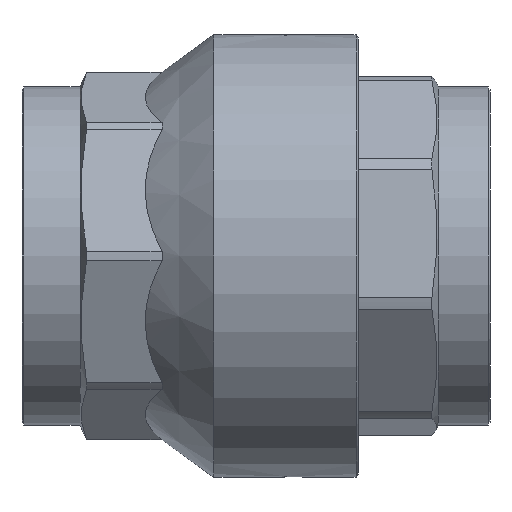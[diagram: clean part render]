
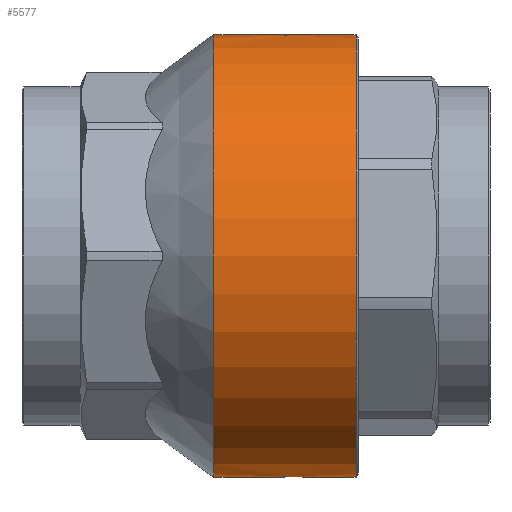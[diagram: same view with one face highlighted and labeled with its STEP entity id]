
A CAD part, front view. The second image highlights one B-rep face of the part: STEP entity #5577.
In plain terms, the highlighted cylindrical face has radius 43.561 mm (diameter 87.122 mm), a partial arc.
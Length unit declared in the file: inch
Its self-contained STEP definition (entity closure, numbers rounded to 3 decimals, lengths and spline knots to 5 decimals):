
#47 = ORIENTED_EDGE ( 'NONE', *, *, #4498, .T. ) ;
#805 = CIRCLE ( 'NONE', #21040, 1.715 ) ;
#1542 = EDGE_CURVE ( 'NONE', #18979, #5548, #12440, .T. ) ;
#1824 =( BOUNDED_CURVE ( )  B_SPLINE_CURVE ( 3, ( #19364, #9232, #2531, #14342 ),
 .UNSPECIFIED., .F., .F. ) 
 B_SPLINE_CURVE_WITH_KNOTS ( ( 4, 4 ),
 ( 4.71239, 4.79818 ),
 .UNSPECIFIED. ) 
 CURVE ( )  GEOMETRIC_REPRESENTATION_ITEM ( )  RATIONAL_B_SPLINE_CURVE ( ( 1., 0.999, 0.999, 1. ) ) 
 REPRESENTATION_ITEM ( '' )  );
#2203 = AXIS2_PLACEMENT_3D ( 'NONE', #4355, #2574, #11034 ) ;
#2343 = ORIENTED_EDGE ( 'NONE', *, *, #21687, .T. ) ;
#2531 = CARTESIAN_POINT ( 'NONE',  ( 0.31906, -0.09807, -1.7129 ) ) ;
#2574 = DIRECTION ( 'NONE',  ( -1., 0., 0. ) ) ;
#2922 = EDGE_LOOP ( 'NONE', ( #21346, #2343, #14854, #47, #14863, #19027, #7562, #17751, #6695, #3567, #20467, #9256, #3518, #6174 ) ) ;
#3518 = ORIENTED_EDGE ( 'NONE', *, *, #9995, .F. ) ;
#3567 = ORIENTED_EDGE ( 'NONE', *, *, #16514, .F. ) ;
#3718 = VECTOR ( 'NONE', #15629, 39.37008 ) ;
#3772 = EDGE_CURVE ( 'NONE', #5819, #13321, #21251, .T. ) ;
#3998 = DIRECTION ( 'NONE',  ( 1., 0., 0. ) ) ;
#4355 = CARTESIAN_POINT ( 'NONE',  ( -5.28898, 0., 0. ) ) ;
#4452 = VERTEX_POINT ( 'NONE', #8392 ) ;
#4472 = DIRECTION ( 'NONE',  ( -1., 0., 0. ) ) ;
#4498 = EDGE_CURVE ( 'NONE', #11951, #5819, #11152, .T. ) ;
#4518 = CARTESIAN_POINT ( 'NONE',  ( -0.12769, 0., 1.715 ) ) ;
#4584 = LINE ( 'NONE', #7281, #17028 ) ;
#5198 = CARTESIAN_POINT ( 'NONE',  ( 0.41583, -0.04906, 1.715 ) ) ;
#5248 = CARTESIAN_POINT ( 'NONE',  ( -0.3275, 0., -1.715 ) ) ;
#5548 = VERTEX_POINT ( 'NONE', #9372 ) ;
#5577 = ADVANCED_FACE ( 'NONE', ( #17791 ), #16731, .T. ) ;
#5745 = EDGE_CURVE ( 'NONE', #18403, #13020, #9567, .T. ) ;
#5819 = VERTEX_POINT ( 'NONE', #18448 ) ;
#5844 = LINE ( 'NONE', #13544, #13788 ) ;
#5883 = DIRECTION ( 'NONE',  ( 0., 0., 1. ) ) ;
#6171 = CARTESIAN_POINT ( 'NONE',  ( 0.77486, 0., 1.715 ) ) ;
#6174 = ORIENTED_EDGE ( 'NONE', *, *, #7341, .F. ) ;
#6505 = DIRECTION ( 'NONE',  ( -1., 0., 0. ) ) ;
#6695 = ORIENTED_EDGE ( 'NONE', *, *, #1542, .F. ) ;
#6723 = AXIS2_PLACEMENT_3D ( 'NONE', #8115, #19916, #9775 ) ;
#6946 = VECTOR ( 'NONE', #16507, 39.37008 ) ;
#7281 = CARTESIAN_POINT ( 'NONE',  ( -5.28898, 0., 1.715 ) ) ;
#7320 = CARTESIAN_POINT ( 'NONE',  ( 0.77486, 0., 0. ) ) ;
#7341 = EDGE_CURVE ( 'NONE', #4452, #13610, #1824, .T. ) ;
#7415 = CARTESIAN_POINT ( 'NONE',  ( -0.12769, 0., -1.715 ) ) ;
#7427 = VERTEX_POINT ( 'NONE', #17876 ) ;
#7562 = ORIENTED_EDGE ( 'NONE', *, *, #19785, .T. ) ;
#7591 = AXIS2_PLACEMENT_3D ( 'NONE', #7320, #19142, #9009 ) ;
#7752 = EDGE_CURVE ( 'NONE', #13321, #19683, #17011, .T. ) ;
#8018 = VECTOR ( 'NONE', #18516, 39.37008 ) ;
#8076 = CARTESIAN_POINT ( 'NONE',  ( 0.77486, 0., -1.715 ) ) ;
#8115 = CARTESIAN_POINT ( 'NONE',  ( -0.12769, 0., 0. ) ) ;
#8392 = CARTESIAN_POINT ( 'NONE',  ( 0.51268, 0., -1.715 ) ) ;
#8615 = CARTESIAN_POINT ( 'NONE',  ( 0.22256, -0.14694, 1.70869 ) ) ;
#8897 = CARTESIAN_POINT ( 'NONE',  ( -0.3275, 0., 0. ) ) ;
#8907 = CARTESIAN_POINT ( 'NONE',  ( -5.28898, -0.0402, -1.71453 ) ) ;
#8986 = EDGE_CURVE ( 'NONE', #15557, #4452, #18011, .T. ) ;
#9009 = DIRECTION ( 'NONE',  ( 0., 0., 1. ) ) ;
#9232 = CARTESIAN_POINT ( 'NONE',  ( 0.41583, -0.04906, -1.715 ) ) ;
#9256 = ORIENTED_EDGE ( 'NONE', *, *, #9418, .F. ) ;
#9372 = CARTESIAN_POINT ( 'NONE',  ( -0.3275, 0., 1.715 ) ) ;
#9418 = EDGE_CURVE ( 'NONE', #7427, #18403, #21141, .T. ) ;
#9497 = AXIS2_PLACEMENT_3D ( 'NONE', #8897, #18930, #21625 ) ;
#9567 = CIRCLE ( 'NONE', #6723, 1.715 ) ;
#9775 = DIRECTION ( 'NONE',  ( 0., 0., -1. ) ) ;
#9820 = CIRCLE ( 'NONE', #7591, 1.715 ) ;
#9995 = EDGE_CURVE ( 'NONE', #13610, #7427, #805, .T. ) ;
#10190 = DIRECTION ( 'NONE',  ( -1., 0., 0. ) ) ;
#11034 = DIRECTION ( 'NONE',  ( 0., 0., 1. ) ) ;
#11152 =( BOUNDED_CURVE ( )  B_SPLINE_CURVE ( 3, ( #18722, #5198, #15325, #8615 ),
 .UNSPECIFIED., .F., .T. ) 
 B_SPLINE_CURVE_WITH_KNOTS ( ( 4, 4 ),
 ( 4.71239, 4.79818 ),
 .UNSPECIFIED. ) 
 CURVE ( )  GEOMETRIC_REPRESENTATION_ITEM ( )  RATIONAL_B_SPLINE_CURVE ( ( 1., 0.999, 0.999, 1. ) ) 
 REPRESENTATION_ITEM ( '' )  );
#11523 = CARTESIAN_POINT ( 'NONE',  ( 0.22256, -0.0402, 1.71453 ) ) ;
#11951 = VERTEX_POINT ( 'NONE', #14037 ) ;
#12440 = CIRCLE ( 'NONE', #9497, 1.715 ) ;
#12808 = EDGE_CURVE ( 'NONE', #14500, #11951, #5844, .T. ) ;
#13020 = VERTEX_POINT ( 'NONE', #7415 ) ;
#13321 = VERTEX_POINT ( 'NONE', #11523 ) ;
#13410 = DIRECTION ( 'NONE',  ( -1., 0., 0. ) ) ;
#13478 = CARTESIAN_POINT ( 'NONE',  ( -5.28898, -0.0402, 1.71453 ) ) ;
#13504 = VECTOR ( 'NONE', #6505, 39.37008 ) ;
#13544 = CARTESIAN_POINT ( 'NONE',  ( -5.28898, 0., 1.715 ) ) ;
#13610 = VERTEX_POINT ( 'NONE', #15517 ) ;
#13788 = VECTOR ( 'NONE', #10190, 39.37008 ) ;
#14037 = CARTESIAN_POINT ( 'NONE',  ( 0.51268, 0., 1.715 ) ) ;
#14118 = CARTESIAN_POINT ( 'NONE',  ( 0.22256, 0., 0. ) ) ;
#14342 = CARTESIAN_POINT ( 'NONE',  ( 0.22256, -0.14694, -1.70869 ) ) ;
#14500 = VERTEX_POINT ( 'NONE', #6171 ) ;
#14615 = CARTESIAN_POINT ( 'NONE',  ( -0.12769, 0., 0. ) ) ;
#14802 = CARTESIAN_POINT ( 'NONE',  ( -5.28898, 0., -1.715 ) ) ;
#14854 = ORIENTED_EDGE ( 'NONE', *, *, #12808, .T. ) ;
#14863 = ORIENTED_EDGE ( 'NONE', *, *, #3772, .T. ) ;
#15325 = CARTESIAN_POINT ( 'NONE',  ( 0.31906, -0.09807, 1.7129 ) ) ;
#15517 = CARTESIAN_POINT ( 'NONE',  ( 0.22256, -0.14694, -1.70869 ) ) ;
#15557 = VERTEX_POINT ( 'NONE', #8076 ) ;
#15626 = CARTESIAN_POINT ( 'NONE',  ( -0.12769, -0.0402, -1.71453 ) ) ;
#15629 = DIRECTION ( 'NONE',  ( -1., 0., 0. ) ) ;
#15823 = DIRECTION ( 'NONE',  ( 0., 0., -1. ) ) ;
#15929 = LINE ( 'NONE', #14802, #6946 ) ;
#16289 = DIRECTION ( 'NONE',  ( 0., 0., 1. ) ) ;
#16507 = DIRECTION ( 'NONE',  ( -1., 0., 0. ) ) ;
#16514 = EDGE_CURVE ( 'NONE', #13020, #18979, #15929, .T. ) ;
#16610 = CARTESIAN_POINT ( 'NONE',  ( -5.28898, 0., -1.715 ) ) ;
#16731 = CYLINDRICAL_SURFACE ( 'NONE', #2203, 1.715 ) ;
#16761 = CIRCLE ( 'NONE', #16941, 1.715 ) ;
#16769 = CARTESIAN_POINT ( 'NONE',  ( 0.22256, 0., 0. ) ) ;
#16941 = AXIS2_PLACEMENT_3D ( 'NONE', #14615, #4472, #16289 ) ;
#17011 = LINE ( 'NONE', #13478, #8018 ) ;
#17028 = VECTOR ( 'NONE', #19089, 39.37008 ) ;
#17055 = VERTEX_POINT ( 'NONE', #4518 ) ;
#17751 = ORIENTED_EDGE ( 'NONE', *, *, #20917, .T. ) ;
#17791 = FACE_OUTER_BOUND ( 'NONE', #2922, .T. ) ;
#17876 = CARTESIAN_POINT ( 'NONE',  ( 0.22256, -0.0402, -1.71453 ) ) ;
#18011 = LINE ( 'NONE', #16610, #13504 ) ;
#18403 = VERTEX_POINT ( 'NONE', #15626 ) ;
#18448 = CARTESIAN_POINT ( 'NONE',  ( 0.22256, -0.14694, 1.70869 ) ) ;
#18516 = DIRECTION ( 'NONE',  ( -1., 0., 0. ) ) ;
#18722 = CARTESIAN_POINT ( 'NONE',  ( 0.51268, 0., 1.715 ) ) ;
#18930 = DIRECTION ( 'NONE',  ( -1., 0., 0. ) ) ;
#18979 = VERTEX_POINT ( 'NONE', #5248 ) ;
#19027 = ORIENTED_EDGE ( 'NONE', *, *, #7752, .T. ) ;
#19089 = DIRECTION ( 'NONE',  ( -1., 0., 0. ) ) ;
#19142 = DIRECTION ( 'NONE',  ( -1., 0., 0. ) ) ;
#19260 = CARTESIAN_POINT ( 'NONE',  ( -0.12769, -0.0402, 1.71453 ) ) ;
#19327 = AXIS2_PLACEMENT_3D ( 'NONE', #16769, #13410, #5883 ) ;
#19364 = CARTESIAN_POINT ( 'NONE',  ( 0.51268, 0., -1.715 ) ) ;
#19683 = VERTEX_POINT ( 'NONE', #19260 ) ;
#19785 = EDGE_CURVE ( 'NONE', #19683, #17055, #16761, .T. ) ;
#19916 = DIRECTION ( 'NONE',  ( 1., 0., 0. ) ) ;
#20467 = ORIENTED_EDGE ( 'NONE', *, *, #5745, .F. ) ;
#20917 = EDGE_CURVE ( 'NONE', #17055, #5548, #4584, .T. ) ;
#21040 = AXIS2_PLACEMENT_3D ( 'NONE', #14118, #3998, #15823 ) ;
#21141 = LINE ( 'NONE', #8907, #3718 ) ;
#21251 = CIRCLE ( 'NONE', #19327, 1.715 ) ;
#21346 = ORIENTED_EDGE ( 'NONE', *, *, #8986, .F. ) ;
#21625 = DIRECTION ( 'NONE',  ( 0., 0., 1. ) ) ;
#21687 = EDGE_CURVE ( 'NONE', #15557, #14500, #9820, .T. ) ;
